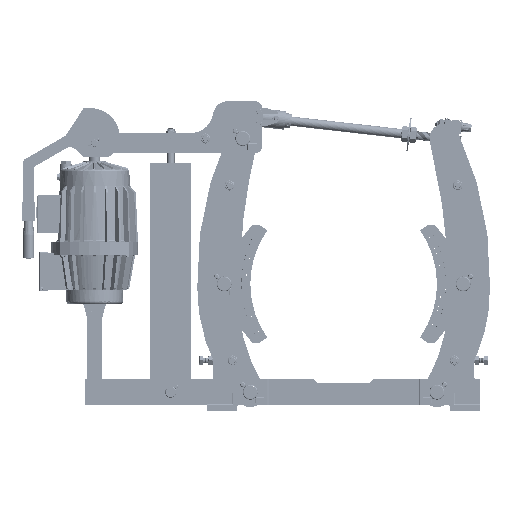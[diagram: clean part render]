
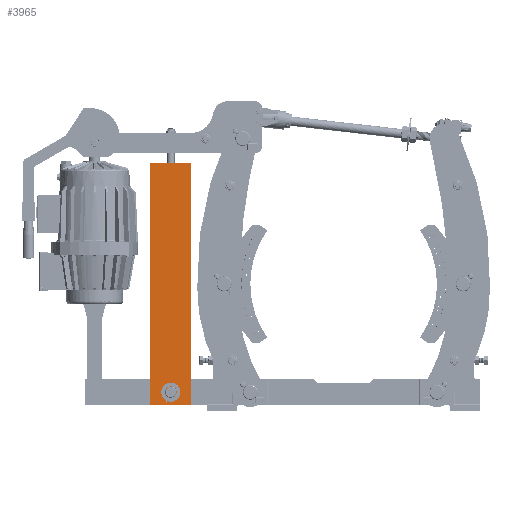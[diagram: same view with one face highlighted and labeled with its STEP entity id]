
A CAD part, left-side view. The second image highlights one B-rep face of the part: STEP entity #3965.
In plain terms, the highlighted planar face has unit normal (-1, 0, 0).
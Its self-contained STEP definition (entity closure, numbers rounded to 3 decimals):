
#3796=DIRECTION('',(0.,-1.,0.));
#3797=VECTOR('',#3796,110.);
#3798=CARTESIAN_POINT('',(-145.,883.002,665.));
#3799=LINE('',#3798,#3797);
#3803=DIRECTION('',(0.,0.,-1.));
#3804=VECTOR('',#3803,650.);
#3805=CARTESIAN_POINT('',(-145.,773.002,665.));
#3806=LINE('',#3805,#3804);
#3810=DIRECTION('',(0.,1.,0.));
#3811=VECTOR('',#3810,110.);
#3812=CARTESIAN_POINT('',(-145.,773.002,15.));
#3813=LINE('',#3812,#3811);
#3817=DIRECTION('',(0.,0.,1.));
#3818=VECTOR('',#3817,650.);
#3819=CARTESIAN_POINT('',(-145.,883.002,15.));
#3820=LINE('',#3819,#3818);
#3824=CARTESIAN_POINT('',(-145.,813.002,50.));
#3825=CARTESIAN_POINT('',(-145.,813.002,50.414));
#3826=CARTESIAN_POINT('',(-145.,813.036,51.24));
#3827=CARTESIAN_POINT('',(-145.,813.19,52.473));
#3828=CARTESIAN_POINT('',(-145.,813.445,53.688));
#3829=CARTESIAN_POINT('',(-145.,813.798,54.876));
#3830=CARTESIAN_POINT('',(-145.,814.251,56.035));
#3831=CARTESIAN_POINT('',(-145.,814.797,57.151));
#3832=CARTESIAN_POINT('',(-145.,815.433,58.218));
#3833=CARTESIAN_POINT('',(-145.,816.154,59.228));
#3834=CARTESIAN_POINT('',(-145.,816.957,60.174));
#3835=CARTESIAN_POINT('',(-145.,817.834,61.051));
#3836=CARTESIAN_POINT('',(-145.,818.781,61.853));
#3837=CARTESIAN_POINT('',(-145.,819.79,62.573));
#3838=CARTESIAN_POINT('',(-145.,820.856,63.208));
#3839=CARTESIAN_POINT('',(-145.,821.971,63.753));
#3840=CARTESIAN_POINT('',(-145.,823.128,64.204));
#3841=CARTESIAN_POINT('',(-145.,824.315,64.557));
#3842=CARTESIAN_POINT('',(-145.,825.529,64.812));
#3843=CARTESIAN_POINT('',(-145.,826.761,64.966));
#3844=CARTESIAN_POINT('',(-145.,827.587,65.));
#3845=CARTESIAN_POINT('',(-145.,828.002,65.));
#3850=CARTESIAN_POINT('',(-145.,828.002,65.));
#3851=CARTESIAN_POINT('',(-145.,828.416,65.));
#3852=CARTESIAN_POINT('',(-145.,829.242,64.966));
#3853=CARTESIAN_POINT('',(-145.,830.474,64.812));
#3854=CARTESIAN_POINT('',(-145.,831.689,64.557));
#3855=CARTESIAN_POINT('',(-145.,832.878,64.203));
#3856=CARTESIAN_POINT('',(-145.,834.037,63.751));
#3857=CARTESIAN_POINT('',(-145.,835.153,63.205));
#3858=CARTESIAN_POINT('',(-145.,836.219,62.569));
#3859=CARTESIAN_POINT('',(-145.,837.23,61.847));
#3860=CARTESIAN_POINT('',(-145.,838.176,61.045));
#3861=CARTESIAN_POINT('',(-145.,839.053,60.168));
#3862=CARTESIAN_POINT('',(-145.,839.854,59.221));
#3863=CARTESIAN_POINT('',(-145.,840.575,58.211));
#3864=CARTESIAN_POINT('',(-145.,841.21,57.146));
#3865=CARTESIAN_POINT('',(-145.,841.755,56.031));
#3866=CARTESIAN_POINT('',(-145.,842.206,54.874));
#3867=CARTESIAN_POINT('',(-145.,842.559,53.687));
#3868=CARTESIAN_POINT('',(-145.,842.814,52.473));
#3869=CARTESIAN_POINT('',(-145.,842.968,51.241));
#3870=CARTESIAN_POINT('',(-145.,843.002,50.415));
#3871=CARTESIAN_POINT('',(-145.,843.002,50.));
#3876=CARTESIAN_POINT('',(-145.,843.002,50.));
#3877=CARTESIAN_POINT('',(-145.,843.002,49.586));
#3878=CARTESIAN_POINT('',(-145.,842.968,48.76));
#3879=CARTESIAN_POINT('',(-145.,842.814,47.527));
#3880=CARTESIAN_POINT('',(-145.,842.559,46.312));
#3881=CARTESIAN_POINT('',(-145.,842.205,45.124));
#3882=CARTESIAN_POINT('',(-145.,841.753,43.965));
#3883=CARTESIAN_POINT('',(-145.,841.207,42.849));
#3884=CARTESIAN_POINT('',(-145.,840.571,41.782));
#3885=CARTESIAN_POINT('',(-145.,839.849,40.772));
#3886=CARTESIAN_POINT('',(-145.,839.047,39.826));
#3887=CARTESIAN_POINT('',(-145.,838.17,38.949));
#3888=CARTESIAN_POINT('',(-145.,837.223,38.147));
#3889=CARTESIAN_POINT('',(-145.,836.213,37.427));
#3890=CARTESIAN_POINT('',(-145.,835.147,36.792));
#3891=CARTESIAN_POINT('',(-145.,834.032,36.247));
#3892=CARTESIAN_POINT('',(-145.,832.876,35.796));
#3893=CARTESIAN_POINT('',(-145.,831.689,35.443));
#3894=CARTESIAN_POINT('',(-145.,830.475,35.188));
#3895=CARTESIAN_POINT('',(-145.,829.243,35.034));
#3896=CARTESIAN_POINT('',(-145.,828.417,35.));
#3897=CARTESIAN_POINT('',(-145.,828.002,35.));
#3902=CARTESIAN_POINT('',(-145.,828.002,35.));
#3903=CARTESIAN_POINT('',(-145.,827.587,35.));
#3904=CARTESIAN_POINT('',(-145.,826.762,35.034));
#3905=CARTESIAN_POINT('',(-145.,825.529,35.188));
#3906=CARTESIAN_POINT('',(-145.,824.314,35.443));
#3907=CARTESIAN_POINT('',(-145.,823.125,35.797));
#3908=CARTESIAN_POINT('',(-145.,821.967,36.249));
#3909=CARTESIAN_POINT('',(-145.,820.851,36.795));
#3910=CARTESIAN_POINT('',(-145.,819.784,37.431));
#3911=CARTESIAN_POINT('',(-145.,818.774,38.153));
#3912=CARTESIAN_POINT('',(-145.,817.828,38.955));
#3913=CARTESIAN_POINT('',(-145.,816.951,39.832));
#3914=CARTESIAN_POINT('',(-145.,816.149,40.779));
#3915=CARTESIAN_POINT('',(-145.,815.429,41.789));
#3916=CARTESIAN_POINT('',(-145.,814.794,42.854));
#3917=CARTESIAN_POINT('',(-145.,814.249,43.969));
#3918=CARTESIAN_POINT('',(-145.,813.798,45.126));
#3919=CARTESIAN_POINT('',(-145.,813.444,46.313));
#3920=CARTESIAN_POINT('',(-145.,813.19,47.527));
#3921=CARTESIAN_POINT('',(-145.,813.036,48.759));
#3922=CARTESIAN_POINT('',(-145.,813.002,49.585));
#3923=CARTESIAN_POINT('',(-145.,813.002,50.));
#3928=CARTESIAN_POINT('',(-145.,883.002,665.));
#3929=CARTESIAN_POINT('',(-145.,773.002,665.));
#3930=VERTEX_POINT('',#3928);
#3931=VERTEX_POINT('',#3929);
#3932=CARTESIAN_POINT('',(-145.,773.002,15.));
#3933=VERTEX_POINT('',#3932);
#3934=CARTESIAN_POINT('',(-145.,883.002,15.));
#3935=VERTEX_POINT('',#3934);
#3936=VERTEX_POINT('',#3824);
#3937=VERTEX_POINT('',#3845);
#3938=VERTEX_POINT('',#3871);
#3939=VERTEX_POINT('',#3897);
#3940=CARTESIAN_POINT('',(-145.,828.002,340.));
#3941=DIRECTION('',(1.,0.,0.));
#3942=DIRECTION('',(0.,0.,1.));
#3943=AXIS2_PLACEMENT_3D('',#3940,#3941,#3942);
#3944=PLANE('',#3943);
#3946=ORIENTED_EDGE('',*,*,#3945,.T.);
#3948=ORIENTED_EDGE('',*,*,#3947,.T.);
#3950=ORIENTED_EDGE('',*,*,#3949,.T.);
#3952=ORIENTED_EDGE('',*,*,#3951,.T.);
#3953=EDGE_LOOP('',(#3946,#3948,#3950,#3952));
#3954=FACE_OUTER_BOUND('',#3953,.F.);
#3956=ORIENTED_EDGE('',*,*,#3955,.T.);
#3958=ORIENTED_EDGE('',*,*,#3957,.T.);
#3960=ORIENTED_EDGE('',*,*,#3959,.T.);
#3962=ORIENTED_EDGE('',*,*,#3961,.T.);
#3963=EDGE_LOOP('',(#3956,#3958,#3960,#3962));
#3964=FACE_BOUND('',#3963,.F.);
#3965=ADVANCED_FACE('',(#3954,#3964),#3944,.F.);
#3846=B_SPLINE_CURVE_WITH_KNOTS('',3,(#3824,#3825,#3826,#3827,#3828,#3829,#3830,
#3831,#3832,#3833,#3834,#3835,#3836,#3837,#3838,#3839,#3840,#3841,#3842,#3843,
#3844,#3845),.UNSPECIFIED.,.F.,.F.,(4,1,1,1,1,1,1,1,1,1,1,1,1,1,1,1,1,1,1,4),(
0.,0.053,0.105,0.158,0.211,
0.263,0.316,0.368,0.421,
0.474,0.526,0.579,0.632,
0.684,0.737,0.789,0.842,
0.895,0.947,1.),.UNSPECIFIED.);
#3872=B_SPLINE_CURVE_WITH_KNOTS('',3,(#3850,#3851,#3852,#3853,#3854,#3855,#3856,
#3857,#3858,#3859,#3860,#3861,#3862,#3863,#3864,#3865,#3866,#3867,#3868,#3869,
#3870,#3871),.UNSPECIFIED.,.F.,.F.,(4,1,1,1,1,1,1,1,1,1,1,1,1,1,1,1,1,1,1,4),(
0.,0.053,0.105,0.158,0.211,
0.263,0.316,0.368,0.421,
0.474,0.526,0.579,0.632,
0.684,0.737,0.789,0.842,
0.895,0.947,1.),.UNSPECIFIED.);
#3898=B_SPLINE_CURVE_WITH_KNOTS('',3,(#3876,#3877,#3878,#3879,#3880,#3881,#3882,
#3883,#3884,#3885,#3886,#3887,#3888,#3889,#3890,#3891,#3892,#3893,#3894,#3895,
#3896,#3897),.UNSPECIFIED.,.F.,.F.,(4,1,1,1,1,1,1,1,1,1,1,1,1,1,1,1,1,1,1,4),(
0.,0.053,0.105,0.158,0.211,
0.263,0.316,0.368,0.421,
0.474,0.526,0.579,0.632,
0.684,0.737,0.789,0.842,
0.895,0.947,1.),.UNSPECIFIED.);
#3924=B_SPLINE_CURVE_WITH_KNOTS('',3,(#3902,#3903,#3904,#3905,#3906,#3907,#3908,
#3909,#3910,#3911,#3912,#3913,#3914,#3915,#3916,#3917,#3918,#3919,#3920,#3921,
#3922,#3923),.UNSPECIFIED.,.F.,.F.,(4,1,1,1,1,1,1,1,1,1,1,1,1,1,1,1,1,1,1,4),(
0.,0.053,0.105,0.158,0.211,
0.263,0.316,0.368,0.421,
0.474,0.526,0.579,0.632,
0.684,0.737,0.789,0.842,
0.895,0.947,1.),.UNSPECIFIED.);
#3945=EDGE_CURVE('',#3930,#3931,#3799,.T.);
#3947=EDGE_CURVE('',#3931,#3933,#3806,.T.);
#3949=EDGE_CURVE('',#3933,#3935,#3813,.T.);
#3951=EDGE_CURVE('',#3935,#3930,#3820,.T.);
#3955=EDGE_CURVE('',#3936,#3937,#3846,.T.);
#3957=EDGE_CURVE('',#3937,#3938,#3872,.T.);
#3959=EDGE_CURVE('',#3938,#3939,#3898,.T.);
#3961=EDGE_CURVE('',#3939,#3936,#3924,.T.);
